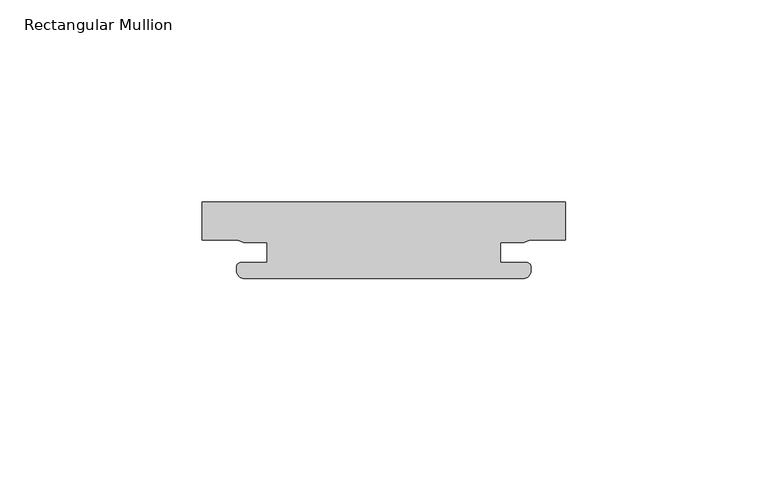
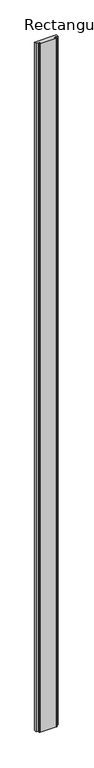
"""IFC4 building model written with IfcOpenShell, lengths in millimetres: member geometry, Rectangular Mullion : Batten_Aluminium_Modinex_Austratus_Linear_Flat_AfricanEbony."""

from ifc_helpers import new_model, si_unit, point, frame, frame_2d, origin, place, context, project, spatial, polyline, circle_curve, trimmed, segment, composite_curve, outline, extrude, source, transform, mapped, element, save


def rectangular_mullion_d7abbbe3(model_context):
    return source(origin(), model_context, "Body", "SweptSolid", [
        extrude(outline(composite_curve([segment(polyline([(44.9926467, 19.0), (44.9926467, 9.5318296), (36.2204196, 9.5318296), (34.6584206, 8.9633084), (28.9265653, 8.9633084), (28.9265653, 3.9633084), (35.3916825, 3.9633084)]), True, "CONTINUOUS"), segment(trimmed(circle_curve(frame_2d((35.3916825, 2.9284256)), 1.0348828), [point((35.3916825, 3.9633084))], [point((36.4265653, 2.9284256))], False, "CARTESIAN"), True, "CONTINUOUS"), segment(polyline([(36.4265653, 2.9284256), (36.4265653, 2.0163173)]), True, "CONTINUOUS"), segment(trimmed(circle_curve(frame_2d((34.4102479, 2.0163173)), 2.0163173), [point((36.4265653, 2.0163173))], [point((34.4102479, 0.0))], False, "CARTESIAN"), True, "CONTINUOUS"), segment(polyline([(34.4102479, 0.0), (-34.4102479, 0.0)]), True, "CONTINUOUS"), segment(trimmed(circle_curve(frame_2d((-34.4102479, 2.0163173)), 2.0163173), [point((-34.4102479, 0.0))], [point((-36.4265653, 2.0163173))], False, "CARTESIAN"), True, "CONTINUOUS"), segment(polyline([(-36.4265653, 2.0163173), (-36.4265653, 2.9284256)]), True, "CONTINUOUS"), segment(trimmed(circle_curve(frame_2d((-35.3916825, 2.9284256)), 1.0348828), [point((-36.4265653, 2.9284256))], [point((-35.3916825, 3.9633084))], False, "CARTESIAN"), True, "CONTINUOUS"), segment(polyline([(-35.3916825, 3.9633084), (-28.9265653, 3.9633084), (-28.9265653, 8.9633084), (-34.6584206, 8.9633084), (-36.2204196, 9.5318296), (-44.9926467, 9.5318296), (-44.9926467, 19.0), (44.9926467, 19.0)]), True, "CONTINUOUS")], self_intersect=False)), frame((0.0, 0.0, -3000.0), z_axis=(0.0, 0.0, 1.0), x_axis=(1.0, 0.0, 0.0)), (0.0, 0.0, 1.0), 3000.0),
    ])


if __name__ == "__main__":
    model = new_model("IFC4")
    model_context = context("Model", 3, world=origin())
    ifc_project = project(units=[si_unit("LENGTHUNIT", "METRE", prefix="MILLI")], contexts=[model_context])
    site = spatial("IfcSite", under=ifc_project)
    building = spatial("IfcBuilding", under=site)
    placement = place(None, origin())
    rectangular_mullion_shape = rectangular_mullion_d7abbbe3(model_context)
    element("IfcMember", 1, ObjectType="Rectangular Mullion : Batten_Aluminium_Modinex_Austratus_Linear_Flat_AfricanEbony", at=placement, inside=building, context=model_context, shape_type="MappedRepresentation", body=[
        mapped(rectangular_mullion_shape, transform((0.0, 0.0, 0.0), x_axis=(1.0, 0.0, 0.0), y_axis=(0.0, 1.0, 0.0), z_axis=(0.0, 0.0, 1.0))),
    ])
    save(model, "model.ifc")
